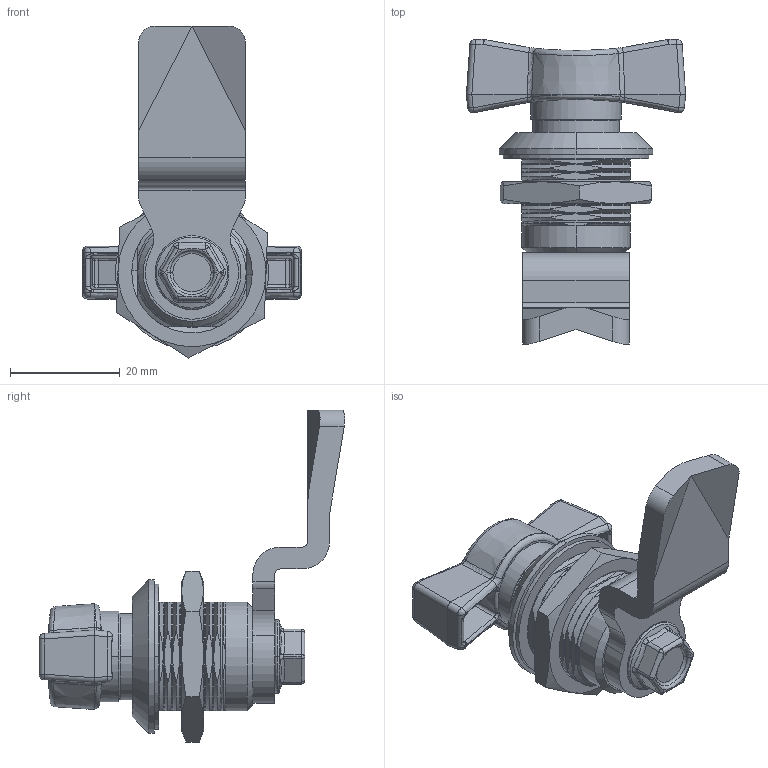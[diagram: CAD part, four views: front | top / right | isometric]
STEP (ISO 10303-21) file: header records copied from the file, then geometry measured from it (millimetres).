
FILE_DESCRIPTION((''),'2;1');
FILE_NAME('101080_ASM','2017-12-01T10:17:30',('Eplan'),('SAGINAW CONTROL & ENGINEERING'),'CREO PARAMETRIC BY PTC INC, 2017260','CREO PARAMETRIC BY PTC INC, 2017260','');
FILE_SCHEMA(('AUTOMOTIVE_DESIGN { 1 0 10303 214 1 1 1 1 }'));
Products named in the file (11): 101080-EXTERNAL-SEAL; 101080-SCREW-M6X10; 101080-O-RING; 101080-EARTH-NUT; 101080-WING-KNOB; 101080-INSERT-SHAFT; 101080-INSERT_ASM; 101080-CAM; 101080-CURVED-WASHER; 101080-HOUSING; 101080_ASM
Assembly tree (10 placements, depth 3):
  101080_ASM
    101080-EXTERNAL-SEAL
    101080-SCREW-M6X10
    101080-O-RING
    101080-EARTH-NUT
    101080-INSERT_ASM
      101080-WING-KNOB
      101080-INSERT-SHAFT
    101080-CAM
    101080-CURVED-WASHER
    101080-HOUSING
Bounding box: 40 x 55.78 x 60.58 mm (x, y, z)
Volume: 20148.8 mm3; surface area: 15410.4 mm2
Topology: 9 solids, 9 shells, 670 faces, 1538 edges, 857 vertices
Faces by surface type: cone 201, cylinder 182, plane 164, bspline 72, sphere 35, torus 16
Entity records: 26500 total; most frequent: CARTESIAN_POINT 9472, ORIENTED_EDGE 3006, DIRECTION 2842, EDGE_CURVE 1503, AXIS2_PLACEMENT_3D 1164, VERTEX_POINT 857, PRESENTATION_STYLE_ASSIGNMENT 755, STYLED_ITEM 755
